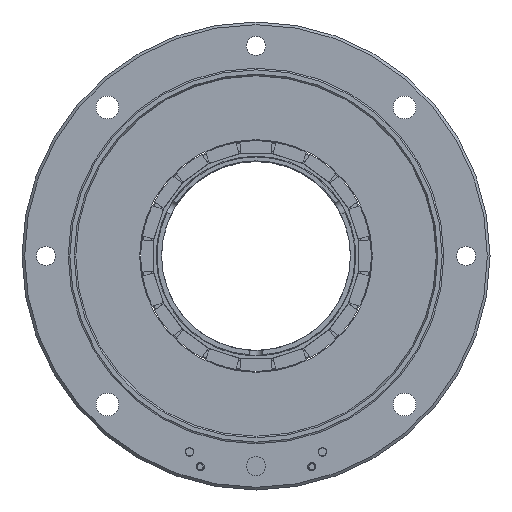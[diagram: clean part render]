
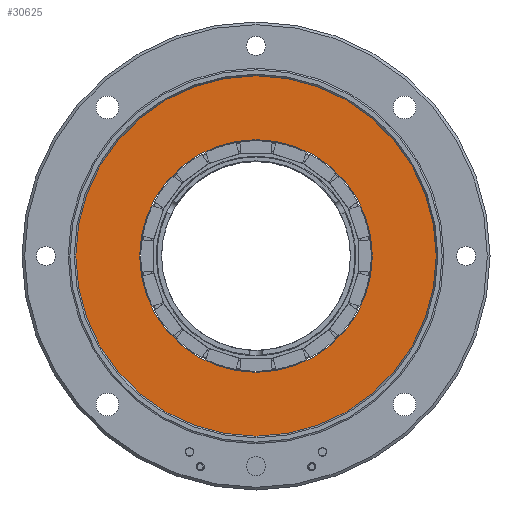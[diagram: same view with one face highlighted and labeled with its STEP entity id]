
A CAD part, left-side view. The second image highlights one B-rep face of the part: STEP entity #30625.
In plain terms, the highlighted planar face has unit normal (-1, 0, 0).
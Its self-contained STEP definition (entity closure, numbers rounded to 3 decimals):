
#20175=CARTESIAN_POINT('',(-1.1,0.,0.));
#20176=DIRECTION('',(-1.,0.,0.));
#20177=DIRECTION('',(0.,1.,0.));
#20178=AXIS2_PLACEMENT_3D('',#20175,#20176,#20177);
#20183=CARTESIAN_POINT('',(-1.1,0.,0.));
#20184=DIRECTION('',(1.,0.,0.));
#20185=DIRECTION('',(0.,1.,0.));
#20186=AXIS2_PLACEMENT_3D('',#20183,#20184,#20185);
#20199=CARTESIAN_POINT('',(-1.1,0.,0.));
#20200=DIRECTION('',(1.,0.,0.));
#20201=DIRECTION('',(0.,1.,0.));
#20202=AXIS2_PLACEMENT_3D('',#20199,#20200,#20201);
#20294=CARTESIAN_POINT('',(-1.1,0.,0.));
#20295=DIRECTION('',(-1.,0.,0.));
#20296=DIRECTION('',(0.,1.,0.));
#20297=AXIS2_PLACEMENT_3D('',#20294,#20295,#20296);
#26659=CARTESIAN_POINT('',(-1.1,21.87,0.));
#26660=CARTESIAN_POINT('',(-1.1,-21.87,0.));
#26661=VERTEX_POINT('',#26659);
#26662=VERTEX_POINT('',#26660);
#26672=CARTESIAN_POINT('',(-1.1,33.885,0.));
#26674=VERTEX_POINT('',#26672);
#26676=CARTESIAN_POINT('',(-1.1,-33.885,0.));
#26678=VERTEX_POINT('',#26676);
#30610=CARTESIAN_POINT('',(-1.1,0.,0.));
#30611=DIRECTION('',(1.,0.,0.));
#30612=DIRECTION('',(0.,-1.,0.));
#30613=AXIS2_PLACEMENT_3D('',#30610,#30611,#30612);
#30614=PLANE('',#30613);
#30615=ORIENTED_EDGE('',*,*,#30603,.F.);
#30616=ORIENTED_EDGE('',*,*,#30592,.T.);
#30617=EDGE_LOOP('',(#30615,#30616));
#30618=FACE_OUTER_BOUND('',#30617,.F.);
#30620=ORIENTED_EDGE('',*,*,#30619,.F.);
#30622=ORIENTED_EDGE('',*,*,#30621,.T.);
#30623=EDGE_LOOP('',(#30620,#30622));
#30624=FACE_BOUND('',#30623,.F.);
#30625=ADVANCED_FACE('',(#30618,#30624),#30614,.F.);
#20179=CIRCLE('',#20178,33.885);
#20187=CIRCLE('',#20186,33.885);
#20203=CIRCLE('',#20202,21.87);
#20298=CIRCLE('',#20297,21.87);
#30592=EDGE_CURVE('',#26674,#26678,#20187,.T.);
#30603=EDGE_CURVE('',#26674,#26678,#20179,.T.);
#30619=EDGE_CURVE('',#26661,#26662,#20203,.T.);
#30621=EDGE_CURVE('',#26661,#26662,#20298,.T.);
